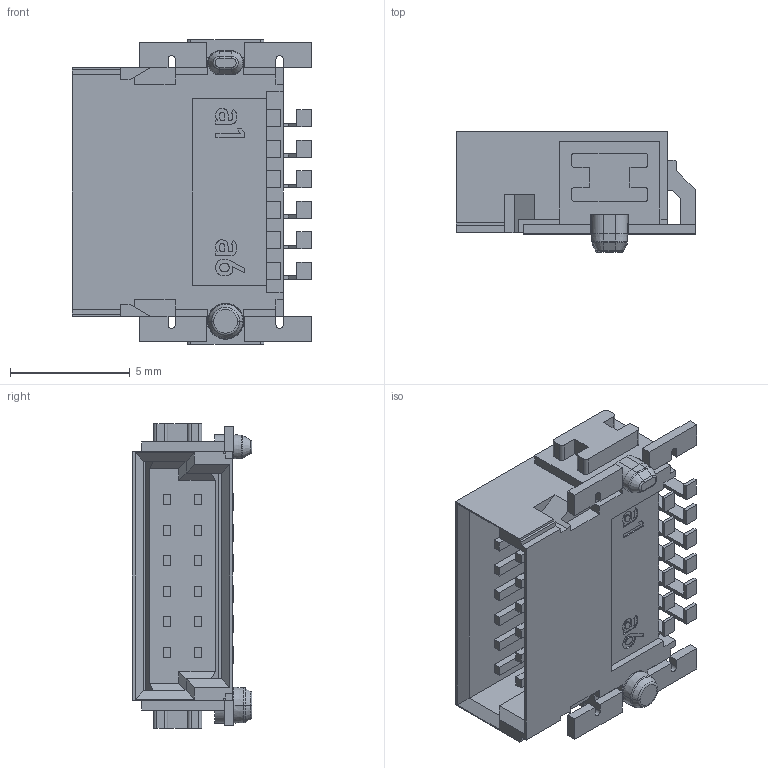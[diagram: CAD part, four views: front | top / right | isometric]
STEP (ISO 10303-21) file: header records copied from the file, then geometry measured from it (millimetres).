
FILE_DESCRIPTION (( 'STEP AP214' ), '1' );
FILE_NAME ('154763.STEP', '2016-03-09T07:21:44', ( 'ERNI Electronics GmbH' ), ( 'ERNI Electronics GmbH' ), 'SwSTEP 2.0', 'SolidWorks 2015', '' );
FILE_SCHEMA (( 'AUTOMOTIVE_DESIGN' ));
Length unit declared in the file: millimetre
Products named in the file (1): 154763
Bounding box: 10 x 5 x 12.7 mm (x, y, z)
Volume: 248.5 mm3; surface area: 671.9 mm2
Topology: 1 solids, 1 shells, 490 faces, 1322 edges, 862 vertices
Faces by surface type: plane 385, bspline 49, cylinder 40, cone 8, torus 8
Entity records: 21950 total; most frequent: CARTESIAN_POINT 4476, ORIENTED_EDGE 2644, DIRECTION 2214, EDGE_CURVE 1322, LINE 1118, VECTOR 1118, VERTEX_POINT 862, AXIS2_PLACEMENT_3D 548
